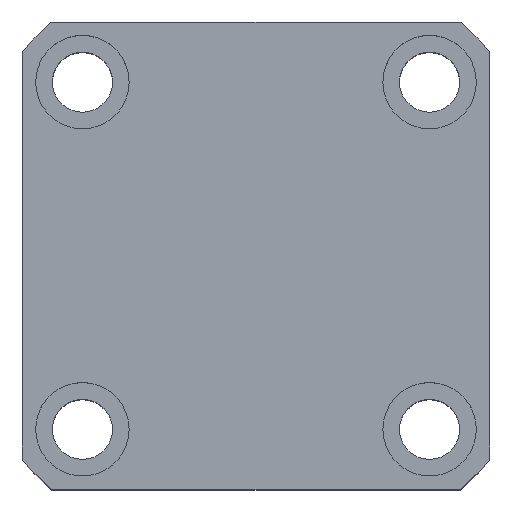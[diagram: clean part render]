
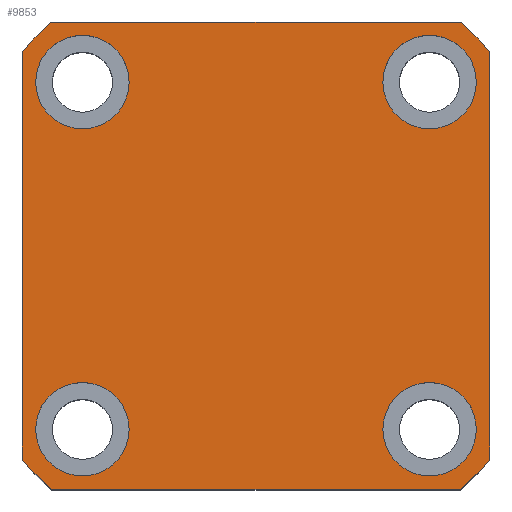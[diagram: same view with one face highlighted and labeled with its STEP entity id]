
A CAD part, top view. The second image highlights one B-rep face of the part: STEP entity #9853.
In plain terms, the highlighted planar face has unit normal (0, 0, 1).
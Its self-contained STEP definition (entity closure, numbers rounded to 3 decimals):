
#18 = DIRECTION ( 'NONE',  ( 1., 0., 0. ) ) ;
#49 = CIRCLE ( 'NONE', #3639, 7. ) ;
#163 = CARTESIAN_POINT ( 'NONE',  ( -35., 35., 60. ) ) ;
#180 = VERTEX_POINT ( 'NONE', #9674 ) ;
#235 = VERTEX_POINT ( 'NONE', #3043 ) ;
#306 = VERTEX_POINT ( 'NONE', #2964 ) ;
#319 = ORIENTED_EDGE ( 'NONE', *, *, #9697, .T. ) ;
#330 = CARTESIAN_POINT ( 'NONE',  ( -35., 35., 60. ) ) ;
#343 = DIRECTION ( 'NONE',  ( 0., 0., 1. ) ) ;
#644 = LINE ( 'NONE', #730, #8637 ) ;
#730 = CARTESIAN_POINT ( 'NONE',  ( -35., -35., 60. ) ) ;
#751 = CARTESIAN_POINT ( 'NONE',  ( 0., 0., 60. ) ) ;
#773 = AXIS2_PLACEMENT_3D ( 'NONE', #4087, #4157, #4562 ) ;
#801 = EDGE_CURVE ( 'NONE', #4605, #1187, #9035, .T. ) ;
#860 = AXIS2_PLACEMENT_3D ( 'NONE', #7439, #2821, #8215 ) ;
#902 = VERTEX_POINT ( 'NONE', #1788 ) ;
#976 = EDGE_CURVE ( 'NONE', #7390, #1577, #6251, .T. ) ;
#1025 = CARTESIAN_POINT ( 'NONE',  ( 19., -26., 60. ) ) ;
#1032 = DIRECTION ( 'NONE',  ( 0., 0., 1. ) ) ;
#1044 = DIRECTION ( 'NONE',  ( 0., 0., 1. ) ) ;
#1090 = CARTESIAN_POINT ( 'NONE',  ( 35., -30.615, 60. ) ) ;
#1187 = VERTEX_POINT ( 'NONE', #1090 ) ;
#1304 = VERTEX_POINT ( 'NONE', #7000 ) ;
#1374 = CARTESIAN_POINT ( 'NONE',  ( -30.615, 35., 60. ) ) ;
#1435 = CARTESIAN_POINT ( 'NONE',  ( -30.615, -35., 60. ) ) ;
#1560 = DIRECTION ( 'NONE',  ( 1., 0., 0. ) ) ;
#1577 = VERTEX_POINT ( 'NONE', #1374 ) ;
#1684 = AXIS2_PLACEMENT_3D ( 'NONE', #4055, #9446, #4831 ) ;
#1788 = CARTESIAN_POINT ( 'NONE',  ( -35., -30.615, 60. ) ) ;
#1793 = ORIENTED_EDGE ( 'NONE', *, *, #6845, .T. ) ;
#2010 = CARTESIAN_POINT ( 'NONE',  ( 30.615, -35., 60. ) ) ;
#2024 = CIRCLE ( 'NONE', #5034, 7. ) ;
#2147 = CARTESIAN_POINT ( 'NONE',  ( 30.615, 35., 60. ) ) ;
#2177 = VECTOR ( 'NONE', #2875, 1000. ) ;
#2318 = EDGE_CURVE ( 'NONE', #1187, #3533, #6509, .T. ) ;
#2644 = ORIENTED_EDGE ( 'NONE', *, *, #6447, .T. ) ;
#2682 = PLANE ( 'NONE',  #2872 ) ;
#2821 = DIRECTION ( 'NONE',  ( 0., 0., 1. ) ) ;
#2872 = AXIS2_PLACEMENT_3D ( 'NONE', #5008, #343, #5768 ) ;
#2875 = DIRECTION ( 'NONE',  ( 0., 1., 0. ) ) ;
#2937 = VERTEX_POINT ( 'NONE', #3080 ) ;
#2964 = CARTESIAN_POINT ( 'NONE',  ( -33., 26., 60. ) ) ;
#3043 = CARTESIAN_POINT ( 'NONE',  ( -35., 30.615, 60. ) ) ;
#3080 = CARTESIAN_POINT ( 'NONE',  ( -19., -26., 60. ) ) ;
#3099 = AXIS2_PLACEMENT_3D ( 'NONE', #8316, #3714, #9081 ) ;
#3258 = ORIENTED_EDGE ( 'NONE', *, *, #4522, .F. ) ;
#3359 = CARTESIAN_POINT ( 'NONE',  ( 33., 26., 60. ) ) ;
#3486 = DIRECTION ( 'NONE',  ( 0., -1., 0. ) ) ;
#3505 = ORIENTED_EDGE ( 'NONE', *, *, #9421, .F. ) ;
#3506 = AXIS2_PLACEMENT_3D ( 'NONE', #5701, #1044, #6466 ) ;
#3533 = VERTEX_POINT ( 'NONE', #7009 ) ;
#3565 = DIRECTION ( 'NONE',  ( 0., 0., 1. ) ) ;
#3587 = AXIS2_PLACEMENT_3D ( 'NONE', #9303, #4680, #18 ) ;
#3600 = FACE_BOUND ( 'NONE', #4691, .T. ) ;
#3639 = AXIS2_PLACEMENT_3D ( 'NONE', #8888, #4281, #9676 ) ;
#3714 = DIRECTION ( 'NONE',  ( 0., 0., 1. ) ) ;
#3731 = CIRCLE ( 'NONE', #3587, 7. ) ;
#3765 = CARTESIAN_POINT ( 'NONE',  ( 26., 26., 60. ) ) ;
#3770 = VERTEX_POINT ( 'NONE', #3359 ) ;
#3945 = DIRECTION ( 'NONE',  ( 0., 0., 1. ) ) ;
#4055 = CARTESIAN_POINT ( 'NONE',  ( -26., 26., 60. ) ) ;
#4078 = AXIS2_PLACEMENT_3D ( 'NONE', #8562, #3945, #9334 ) ;
#4087 = CARTESIAN_POINT ( 'NONE',  ( 0., 0., 60. ) ) ;
#4157 = DIRECTION ( 'NONE',  ( 0., 0., 1. ) ) ;
#4225 = ORIENTED_EDGE ( 'NONE', *, *, #976, .T. ) ;
#4281 = DIRECTION ( 'NONE',  ( 0., 0., 1. ) ) ;
#4302 = CIRCLE ( 'NONE', #8738, 46.5 ) ;
#4333 = EDGE_LOOP ( 'NONE', ( #7365, #7602, #4225, #319, #2644, #5658, #1793, #8812 ) ) ;
#4418 = CARTESIAN_POINT ( 'NONE',  ( 35., 35., 60. ) ) ;
#4520 = DIRECTION ( 'NONE',  ( 1., 0., 0. ) ) ;
#4522 = EDGE_CURVE ( 'NONE', #4836, #7138, #49, .T. ) ;
#4554 = CIRCLE ( 'NONE', #860, 7. ) ;
#4562 = DIRECTION ( 'NONE',  ( 1., 0., 0. ) ) ;
#4605 = VERTEX_POINT ( 'NONE', #2010 ) ;
#4680 = DIRECTION ( 'NONE',  ( 0., 0., 1. ) ) ;
#4691 = EDGE_LOOP ( 'NONE', ( #3258, #3505 ) ) ;
#4715 = EDGE_CURVE ( 'NONE', #2937, #8003, #6615, .T. ) ;
#4831 = DIRECTION ( 'NONE',  ( 1., 0., 0. ) ) ;
#4836 = VERTEX_POINT ( 'NONE', #9995 ) ;
#4933 = VECTOR ( 'NONE', #5730, 1000. ) ;
#5008 = CARTESIAN_POINT ( 'NONE',  ( 0., 0., 60. ) ) ;
#5018 = CIRCLE ( 'NONE', #1684, 7. ) ;
#5034 = AXIS2_PLACEMENT_3D ( 'NONE', #8171, #3565, #8939 ) ;
#5064 = ORIENTED_EDGE ( 'NONE', *, *, #8015, .F. ) ;
#5624 = FACE_BOUND ( 'NONE', #9774, .T. ) ;
#5658 = ORIENTED_EDGE ( 'NONE', *, *, #9486, .T. ) ;
#5693 = CARTESIAN_POINT ( 'NONE',  ( 0., 0., 60. ) ) ;
#5701 = CARTESIAN_POINT ( 'NONE',  ( -26., 26., 60. ) ) ;
#5730 = DIRECTION ( 'NONE',  ( -1., 0., 0. ) ) ;
#5768 = DIRECTION ( 'NONE',  ( 1., 0., 0. ) ) ;
#6078 = AXIS2_PLACEMENT_3D ( 'NONE', #3765, #9129, #4520 ) ;
#6159 = DIRECTION ( 'NONE',  ( 1., 0., 0. ) ) ;
#6183 = DIRECTION ( 'NONE',  ( 0., 0., 1. ) ) ;
#6251 = LINE ( 'NONE', #163, #4933 ) ;
#6447 = EDGE_CURVE ( 'NONE', #235, #902, #6463, .T. ) ;
#6454 = DIRECTION ( 'NONE',  ( 1., 0., 0. ) ) ;
#6463 = LINE ( 'NONE', #330, #6952 ) ;
#6466 = DIRECTION ( 'NONE',  ( 1., 0., 0. ) ) ;
#6509 = LINE ( 'NONE', #4418, #2177 ) ;
#6615 = CIRCLE ( 'NONE', #3099, 7. ) ;
#6637 = ORIENTED_EDGE ( 'NONE', *, *, #9038, .F. ) ;
#6684 = EDGE_LOOP ( 'NONE', ( #6637, #5064 ) ) ;
#6845 = EDGE_CURVE ( 'NONE', #8708, #4605, #644, .T. ) ;
#6952 = VECTOR ( 'NONE', #3486, 1000. ) ;
#6987 = EDGE_LOOP ( 'NONE', ( #9637, #9653 ) ) ;
#7000 = CARTESIAN_POINT ( 'NONE',  ( 19., 26., 60. ) ) ;
#7009 = CARTESIAN_POINT ( 'NONE',  ( 35., 30.615, 60. ) ) ;
#7138 = VERTEX_POINT ( 'NONE', #1025 ) ;
#7365 = ORIENTED_EDGE ( 'NONE', *, *, #2318, .T. ) ;
#7390 = VERTEX_POINT ( 'NONE', #2147 ) ;
#7439 = CARTESIAN_POINT ( 'NONE',  ( -26., -26., 60. ) ) ;
#7602 = ORIENTED_EDGE ( 'NONE', *, *, #8844, .T. ) ;
#7687 = CIRCLE ( 'NONE', #6078, 7. ) ;
#7757 = EDGE_CURVE ( 'NONE', #8003, #2937, #4554, .T. ) ;
#7919 = FACE_BOUND ( 'NONE', #6987, .T. ) ;
#8003 = VERTEX_POINT ( 'NONE', #8765 ) ;
#8015 = EDGE_CURVE ( 'NONE', #306, #180, #8180, .T. ) ;
#8124 = EDGE_CURVE ( 'NONE', #1304, #3770, #2024, .T. ) ;
#8171 = CARTESIAN_POINT ( 'NONE',  ( 26., 26., 60. ) ) ;
#8180 = CIRCLE ( 'NONE', #3506, 7. ) ;
#8210 = EDGE_CURVE ( 'NONE', #3770, #1304, #7687, .T. ) ;
#8215 = DIRECTION ( 'NONE',  ( 1., 0., 0. ) ) ;
#8316 = CARTESIAN_POINT ( 'NONE',  ( -26., -26., 60. ) ) ;
#8562 = CARTESIAN_POINT ( 'NONE',  ( 0., 0., 60. ) ) ;
#8608 = AXIS2_PLACEMENT_3D ( 'NONE', #751, #6183, #1560 ) ;
#8637 = VECTOR ( 'NONE', #6159, 1000. ) ;
#8664 = ORIENTED_EDGE ( 'NONE', *, *, #4715, .F. ) ;
#8708 = VERTEX_POINT ( 'NONE', #1435 ) ;
#8738 = AXIS2_PLACEMENT_3D ( 'NONE', #5693, #1032, #6454 ) ;
#8765 = CARTESIAN_POINT ( 'NONE',  ( -33., -26., 60. ) ) ;
#8812 = ORIENTED_EDGE ( 'NONE', *, *, #801, .T. ) ;
#8844 = EDGE_CURVE ( 'NONE', #3533, #7390, #9603, .T. ) ;
#8888 = CARTESIAN_POINT ( 'NONE',  ( 26., -26., 60. ) ) ;
#8911 = ORIENTED_EDGE ( 'NONE', *, *, #7757, .F. ) ;
#8939 = DIRECTION ( 'NONE',  ( 1., 0., 0. ) ) ;
#9035 = CIRCLE ( 'NONE', #773, 46.5 ) ;
#9038 = EDGE_CURVE ( 'NONE', #180, #306, #5018, .T. ) ;
#9081 = DIRECTION ( 'NONE',  ( 1., 0., 0. ) ) ;
#9129 = DIRECTION ( 'NONE',  ( 0., 0., 1. ) ) ;
#9303 = CARTESIAN_POINT ( 'NONE',  ( 26., -26., 60. ) ) ;
#9334 = DIRECTION ( 'NONE',  ( 1., 0., 0. ) ) ;
#9421 = EDGE_CURVE ( 'NONE', #7138, #4836, #3731, .T. ) ;
#9446 = DIRECTION ( 'NONE',  ( 0., 0., 1. ) ) ;
#9479 = FACE_OUTER_BOUND ( 'NONE', #4333, .T. ) ;
#9486 = EDGE_CURVE ( 'NONE', #902, #8708, #9604, .T. ) ;
#9603 = CIRCLE ( 'NONE', #8608, 46.5 ) ;
#9604 = CIRCLE ( 'NONE', #4078, 46.5 ) ;
#9637 = ORIENTED_EDGE ( 'NONE', *, *, #8210, .F. ) ;
#9653 = ORIENTED_EDGE ( 'NONE', *, *, #8124, .F. ) ;
#9674 = CARTESIAN_POINT ( 'NONE',  ( -19., 26., 60. ) ) ;
#9676 = DIRECTION ( 'NONE',  ( 1., 0., 0. ) ) ;
#9697 = EDGE_CURVE ( 'NONE', #1577, #235, #4302, .T. ) ;
#9774 = EDGE_LOOP ( 'NONE', ( #8664, #8911 ) ) ;
#9853 = ADVANCED_FACE ( 'NONE', ( #5624, #3600, #7919, #9979, #9479 ), #2682, .T. ) ;
#9979 = FACE_BOUND ( 'NONE', #6684, .T. ) ;
#9995 = CARTESIAN_POINT ( 'NONE',  ( 33., -26., 60. ) ) ;
